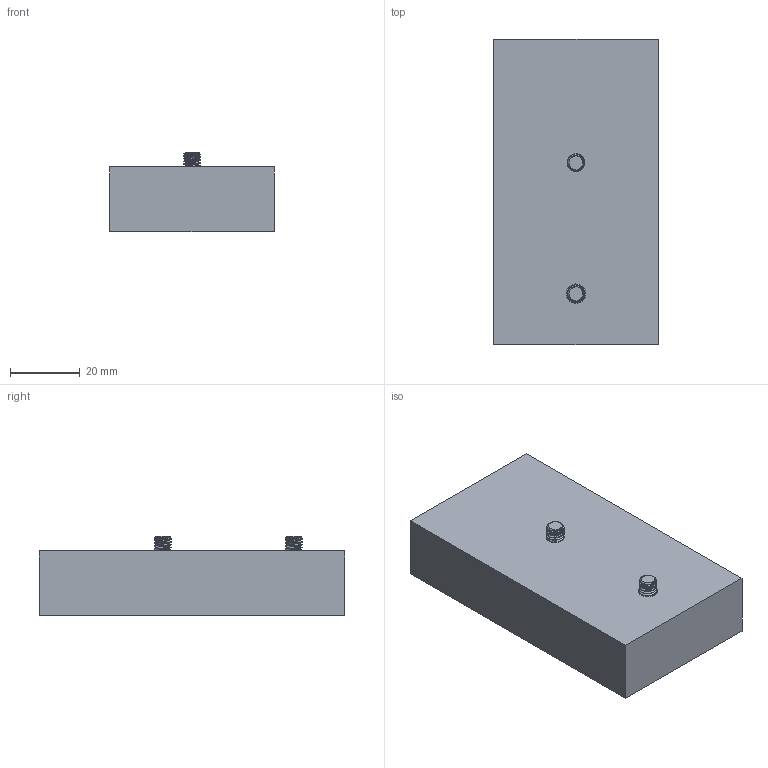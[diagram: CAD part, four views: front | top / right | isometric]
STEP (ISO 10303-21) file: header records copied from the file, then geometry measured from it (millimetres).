
FILE_DESCRIPTION(/* description */ (''),/* implementation_level */ '2;1');
FILE_NAME(/* name */ 'Muffler Container.step',/* time_stamp */ '2026-07-12T17:32:29-05:00',/* author */ (''),/* organization */ (''),/* preprocessor_version */ 'ST-DEVELOPER v20.1',/* originating_system */ 'Autodesk Translation Framework v15.8.0.0',/* authorisation */ '');
FILE_SCHEMA (('AUTOMOTIVE_DESIGN { 1 0 10303 214 3 1 1 }'));
Length unit declared in the file: inch
Products named in the file (2): Muffler Container; 91290A232_Black-Oxide Alloy Steel Socket Head Screw
Assembly tree (2 placements, depth 2):
  Muffler Container
    91290A232_Black-Oxide Alloy Steel Socket Head Screw  x2
Bounding box: 47.18 x 87.59 x 22.86 mm (x, y, z)
Volume: 67655.5 mm3; surface area: 27531.1 mm2
Topology: 4 solids, 4 shells, 755 faces, 2197 edges, 1460 vertices
Faces by surface type: plane 480, cylinder 253, cone 12, bspline 6, torus 4
Full cylindrical faces by diameter (mm): 3.961 x38, 4.698 x1, 5 x36, 5.588 x3, 7.62 x2, 8.5 x2, 9.652 x2, 10.16 x2
Entity records: 17556 total; most frequent: CARTESIAN_POINT 7215, ORIENTED_EDGE 2334, DIRECTION 1950, EDGE_CURVE 1167, VERTEX_POINT 775, AXIS2_PLACEMENT_3D 692, LINE 566, VECTOR 566
